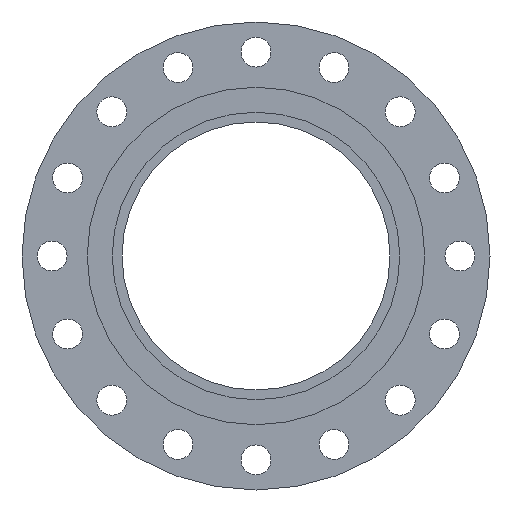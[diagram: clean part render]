
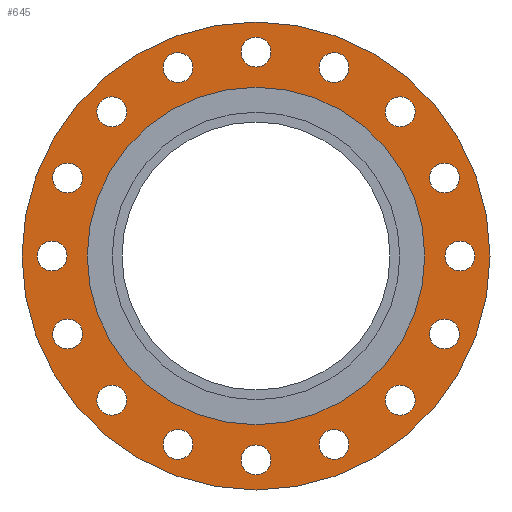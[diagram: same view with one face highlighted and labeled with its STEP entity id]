
A CAD part, left-side view. The second image highlights one B-rep face of the part: STEP entity #645.
In plain terms, the highlighted planar face has unit normal (-1, 0, 0).
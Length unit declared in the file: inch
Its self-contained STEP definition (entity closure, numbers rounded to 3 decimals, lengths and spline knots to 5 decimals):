
#14=FACE_BOUND('',#108,.T.);
#15=FACE_BOUND('',#109,.T.);
#16=FACE_BOUND('',#110,.T.);
#17=FACE_BOUND('',#111,.T.);
#18=FACE_BOUND('',#112,.T.);
#19=FACE_BOUND('',#113,.T.);
#20=FACE_BOUND('',#114,.T.);
#21=FACE_BOUND('',#115,.T.);
#22=FACE_BOUND('',#116,.T.);
#23=FACE_BOUND('',#117,.T.);
#24=FACE_BOUND('',#118,.T.);
#25=FACE_BOUND('',#119,.T.);
#26=FACE_BOUND('',#120,.T.);
#27=FACE_BOUND('',#121,.T.);
#28=FACE_BOUND('',#122,.T.);
#29=FACE_BOUND('',#123,.T.);
#30=FACE_BOUND('',#124,.T.);
#53=PLANE('',#731);
#77=FACE_OUTER_BOUND('',#107,.T.);
#107=EDGE_LOOP('',(#478,#479));
#108=EDGE_LOOP('',(#480));
#109=EDGE_LOOP('',(#481));
#110=EDGE_LOOP('',(#482));
#111=EDGE_LOOP('',(#483));
#112=EDGE_LOOP('',(#484));
#113=EDGE_LOOP('',(#485));
#114=EDGE_LOOP('',(#486));
#115=EDGE_LOOP('',(#487));
#116=EDGE_LOOP('',(#488));
#117=EDGE_LOOP('',(#489));
#118=EDGE_LOOP('',(#490));
#119=EDGE_LOOP('',(#491));
#120=EDGE_LOOP('',(#492));
#121=EDGE_LOOP('',(#493));
#122=EDGE_LOOP('',(#494));
#123=EDGE_LOOP('',(#495));
#124=EDGE_LOOP('',(#496,#497));
#206=CIRCLE('',#680,0.56);
#208=CIRCLE('',#683,0.56);
#210=CIRCLE('',#686,0.56);
#212=CIRCLE('',#689,0.56);
#214=CIRCLE('',#692,0.56);
#216=CIRCLE('',#695,0.56);
#218=CIRCLE('',#698,0.56);
#220=CIRCLE('',#701,0.56);
#222=CIRCLE('',#704,0.56);
#224=CIRCLE('',#707,0.56);
#226=CIRCLE('',#710,0.56);
#228=CIRCLE('',#713,0.56);
#230=CIRCLE('',#716,0.56);
#232=CIRCLE('',#719,0.56);
#234=CIRCLE('',#722,0.56);
#236=CIRCLE('',#725,0.56);
#237=CIRCLE('',#727,8.75);
#238=CIRCLE('',#728,8.75);
#241=CIRCLE('',#732,6.31);
#242=CIRCLE('',#733,6.31);
#266=VERTEX_POINT('',#977);
#268=VERTEX_POINT('',#983);
#270=VERTEX_POINT('',#989);
#272=VERTEX_POINT('',#995);
#274=VERTEX_POINT('',#1001);
#276=VERTEX_POINT('',#1007);
#278=VERTEX_POINT('',#1013);
#280=VERTEX_POINT('',#1019);
#282=VERTEX_POINT('',#1025);
#284=VERTEX_POINT('',#1031);
#286=VERTEX_POINT('',#1037);
#288=VERTEX_POINT('',#1043);
#290=VERTEX_POINT('',#1049);
#292=VERTEX_POINT('',#1055);
#294=VERTEX_POINT('',#1061);
#296=VERTEX_POINT('',#1067);
#297=VERTEX_POINT('',#1071);
#298=VERTEX_POINT('',#1072);
#301=VERTEX_POINT('',#1081);
#302=VERTEX_POINT('',#1082);
#327=EDGE_CURVE('',#266,#266,#206,.T.);
#330=EDGE_CURVE('',#268,#268,#208,.T.);
#333=EDGE_CURVE('',#270,#270,#210,.T.);
#336=EDGE_CURVE('',#272,#272,#212,.T.);
#339=EDGE_CURVE('',#274,#274,#214,.T.);
#342=EDGE_CURVE('',#276,#276,#216,.T.);
#345=EDGE_CURVE('',#278,#278,#218,.T.);
#348=EDGE_CURVE('',#280,#280,#220,.T.);
#351=EDGE_CURVE('',#282,#282,#222,.T.);
#354=EDGE_CURVE('',#284,#284,#224,.T.);
#357=EDGE_CURVE('',#286,#286,#226,.T.);
#360=EDGE_CURVE('',#288,#288,#228,.T.);
#363=EDGE_CURVE('',#290,#290,#230,.T.);
#366=EDGE_CURVE('',#292,#292,#232,.T.);
#369=EDGE_CURVE('',#294,#294,#234,.T.);
#372=EDGE_CURVE('',#296,#296,#236,.T.);
#373=EDGE_CURVE('',#297,#298,#237,.T.);
#374=EDGE_CURVE('',#298,#297,#238,.T.);
#378=EDGE_CURVE('',#301,#302,#241,.T.);
#379=EDGE_CURVE('',#302,#301,#242,.T.);
#478=ORIENTED_EDGE('',*,*,#373,.T.);
#479=ORIENTED_EDGE('',*,*,#374,.T.);
#480=ORIENTED_EDGE('',*,*,#327,.T.);
#481=ORIENTED_EDGE('',*,*,#330,.T.);
#482=ORIENTED_EDGE('',*,*,#333,.T.);
#483=ORIENTED_EDGE('',*,*,#336,.T.);
#484=ORIENTED_EDGE('',*,*,#339,.T.);
#485=ORIENTED_EDGE('',*,*,#342,.T.);
#486=ORIENTED_EDGE('',*,*,#345,.T.);
#487=ORIENTED_EDGE('',*,*,#348,.T.);
#488=ORIENTED_EDGE('',*,*,#351,.T.);
#489=ORIENTED_EDGE('',*,*,#354,.T.);
#490=ORIENTED_EDGE('',*,*,#357,.T.);
#491=ORIENTED_EDGE('',*,*,#360,.T.);
#492=ORIENTED_EDGE('',*,*,#363,.T.);
#493=ORIENTED_EDGE('',*,*,#366,.T.);
#494=ORIENTED_EDGE('',*,*,#369,.T.);
#495=ORIENTED_EDGE('',*,*,#372,.T.);
#496=ORIENTED_EDGE('',*,*,#378,.F.);
#497=ORIENTED_EDGE('',*,*,#379,.F.);
#645=ADVANCED_FACE('',(#77,#14,#15,#16,#17,#18,#19,#20,#21,#22,#23,#24,
#25,#26,#27,#28,#29,#30),#53,.T.);
#680=AXIS2_PLACEMENT_3D('',#979,#775,#776);
#683=AXIS2_PLACEMENT_3D('',#985,#782,#783);
#686=AXIS2_PLACEMENT_3D('',#991,#789,#790);
#689=AXIS2_PLACEMENT_3D('',#997,#796,#797);
#692=AXIS2_PLACEMENT_3D('',#1003,#803,#804);
#695=AXIS2_PLACEMENT_3D('',#1009,#810,#811);
#698=AXIS2_PLACEMENT_3D('',#1015,#817,#818);
#701=AXIS2_PLACEMENT_3D('',#1021,#824,#825);
#704=AXIS2_PLACEMENT_3D('',#1027,#831,#832);
#707=AXIS2_PLACEMENT_3D('',#1033,#838,#839);
#710=AXIS2_PLACEMENT_3D('',#1039,#845,#846);
#713=AXIS2_PLACEMENT_3D('',#1045,#852,#853);
#716=AXIS2_PLACEMENT_3D('',#1051,#859,#860);
#719=AXIS2_PLACEMENT_3D('',#1057,#866,#867);
#722=AXIS2_PLACEMENT_3D('',#1063,#873,#874);
#725=AXIS2_PLACEMENT_3D('',#1069,#880,#881);
#727=AXIS2_PLACEMENT_3D('',#1073,#884,#885);
#728=AXIS2_PLACEMENT_3D('',#1074,#886,#887);
#731=AXIS2_PLACEMENT_3D('',#1080,#893,#894);
#732=AXIS2_PLACEMENT_3D('',#1083,#895,#896);
#733=AXIS2_PLACEMENT_3D('',#1084,#897,#898);
#775=DIRECTION('center_axis',(1.,0.,0.));
#776=DIRECTION('ref_axis',(0.,-0.383,0.924));
#782=DIRECTION('center_axis',(1.,0.,0.));
#783=DIRECTION('ref_axis',(0.,-0.707,0.707));
#789=DIRECTION('center_axis',(1.,0.,0.));
#790=DIRECTION('ref_axis',(0.,-0.924,0.383));
#796=DIRECTION('center_axis',(1.,0.,0.));
#797=DIRECTION('ref_axis',(0.,-1.,0.));
#803=DIRECTION('center_axis',(1.,0.,0.));
#804=DIRECTION('ref_axis',(0.,-0.924,-0.383));
#810=DIRECTION('center_axis',(1.,0.,0.));
#811=DIRECTION('ref_axis',(0.,-0.707,-0.707));
#817=DIRECTION('center_axis',(1.,0.,0.));
#818=DIRECTION('ref_axis',(0.,-0.383,-0.924));
#824=DIRECTION('center_axis',(1.,0.,0.));
#825=DIRECTION('ref_axis',(0.,0.,-1.));
#831=DIRECTION('center_axis',(1.,0.,0.));
#832=DIRECTION('ref_axis',(0.,0.383,-0.924));
#838=DIRECTION('center_axis',(1.,0.,0.));
#839=DIRECTION('ref_axis',(0.,0.707,-0.707));
#845=DIRECTION('center_axis',(1.,0.,0.));
#846=DIRECTION('ref_axis',(0.,0.924,-0.383));
#852=DIRECTION('center_axis',(1.,0.,0.));
#853=DIRECTION('ref_axis',(0.,1.,0.));
#859=DIRECTION('center_axis',(1.,0.,0.));
#860=DIRECTION('ref_axis',(0.,0.924,0.383));
#866=DIRECTION('center_axis',(1.,0.,0.));
#867=DIRECTION('ref_axis',(0.,0.707,0.707));
#873=DIRECTION('center_axis',(1.,0.,0.));
#874=DIRECTION('ref_axis',(0.,0.383,0.924));
#880=DIRECTION('center_axis',(1.,0.,0.));
#881=DIRECTION('ref_axis',(0.,0.,1.));
#884=DIRECTION('center_axis',(-1.,0.,0.));
#885=DIRECTION('ref_axis',(0.,0.,1.));
#886=DIRECTION('center_axis',(-1.,0.,0.));
#887=DIRECTION('ref_axis',(0.,0.,1.));
#893=DIRECTION('center_axis',(-1.,0.,0.));
#894=DIRECTION('ref_axis',(0.,0.,1.));
#895=DIRECTION('center_axis',(-1.,0.,0.));
#896=DIRECTION('ref_axis',(0.,0.,1.));
#897=DIRECTION('center_axis',(-1.,0.,0.));
#898=DIRECTION('ref_axis',(0.,0.,1.));
#977=CARTESIAN_POINT('',(-1.88,3.13226,-7.56195));
#979=CARTESIAN_POINT('Origin',(-1.88,2.91796,-7.04458));
#983=CARTESIAN_POINT('',(-1.88,5.78767,-5.78767));
#985=CARTESIAN_POINT('Origin',(-1.88,5.39169,-5.39169));
#989=CARTESIAN_POINT('',(-1.88,7.56195,-3.13226));
#991=CARTESIAN_POINT('Origin',(-1.88,7.04458,-2.91796));
#995=CARTESIAN_POINT('',(-1.88,8.185,0.));
#997=CARTESIAN_POINT('Origin',(-1.88,7.625,0.));
#1001=CARTESIAN_POINT('',(-1.88,7.56195,3.13226));
#1003=CARTESIAN_POINT('Origin',(-1.88,7.04458,2.91796));
#1007=CARTESIAN_POINT('',(-1.88,5.78767,5.78767));
#1009=CARTESIAN_POINT('Origin',(-1.88,5.39169,5.39169));
#1013=CARTESIAN_POINT('',(-1.88,3.13226,7.56195));
#1015=CARTESIAN_POINT('Origin',(-1.88,2.91796,7.04458));
#1019=CARTESIAN_POINT('',(-1.88,0.,8.185));
#1021=CARTESIAN_POINT('Origin',(-1.88,0.,7.625));
#1025=CARTESIAN_POINT('',(-1.88,-3.13226,7.56195));
#1027=CARTESIAN_POINT('Origin',(-1.88,-2.91796,7.04458));
#1031=CARTESIAN_POINT('',(-1.88,-5.78767,5.78767));
#1033=CARTESIAN_POINT('Origin',(-1.88,-5.39169,5.39169));
#1037=CARTESIAN_POINT('',(-1.88,-7.56195,3.13226));
#1039=CARTESIAN_POINT('Origin',(-1.88,-7.04458,2.91796));
#1043=CARTESIAN_POINT('',(-1.88,-8.185,0.));
#1045=CARTESIAN_POINT('Origin',(-1.88,-7.625,0.));
#1049=CARTESIAN_POINT('',(-1.88,-7.56195,-3.13226));
#1051=CARTESIAN_POINT('Origin',(-1.88,-7.04458,-2.91796));
#1055=CARTESIAN_POINT('',(-1.88,-5.78767,-5.78767));
#1057=CARTESIAN_POINT('Origin',(-1.88,-5.39169,-5.39169));
#1061=CARTESIAN_POINT('',(-1.88,-3.13226,-7.56195));
#1063=CARTESIAN_POINT('Origin',(-1.88,-2.91796,-7.04458));
#1067=CARTESIAN_POINT('',(-1.88,0.,-8.185));
#1069=CARTESIAN_POINT('Origin',(-1.88,0.,-7.625));
#1071=CARTESIAN_POINT('',(-1.88,0.,8.75));
#1072=CARTESIAN_POINT('',(-1.88,0.,-8.75));
#1073=CARTESIAN_POINT('Origin',(-1.88,0.,0.));
#1074=CARTESIAN_POINT('Origin',(-1.88,0.,0.));
#1080=CARTESIAN_POINT('Origin',(-1.88,0.,7.53));
#1081=CARTESIAN_POINT('',(-1.88,0.,6.31));
#1082=CARTESIAN_POINT('',(-1.88,0.,-6.31));
#1083=CARTESIAN_POINT('Origin',(-1.88,0.,0.));
#1084=CARTESIAN_POINT('Origin',(-1.88,0.,0.));
